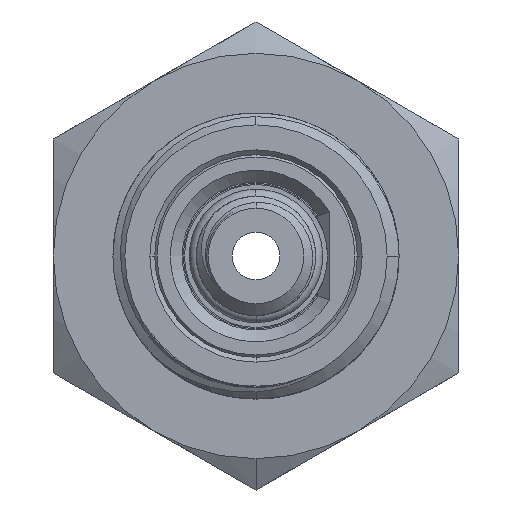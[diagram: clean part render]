
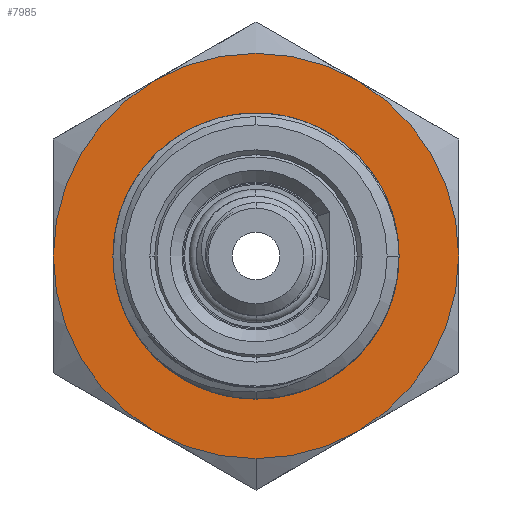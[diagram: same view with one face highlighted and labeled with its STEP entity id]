
A CAD part, front view. The second image highlights one B-rep face of the part: STEP entity #7985.
In plain terms, the highlighted planar face has unit normal (0, -1, 0).
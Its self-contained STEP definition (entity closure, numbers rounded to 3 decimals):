
#249 = AXIS2_PLACEMENT_3D ( 'NONE', #7183, #2002, #6165 ) ;
#459 = EDGE_CURVE ( 'NONE', #7045, #2466, #6243, .T. ) ;
#475 = CIRCLE ( 'NONE', #10247, 8.5 ) ;
#607 = VERTEX_POINT ( 'NONE', #5678 ) ;
#750 = CARTESIAN_POINT ( 'NONE',  ( -5.541, 10., -2.301 ) ) ;
#754 = ORIENTED_EDGE ( 'NONE', *, *, #12291, .F. ) ;
#930 = CARTESIAN_POINT ( 'NONE',  ( 0., 10., 0. ) ) ;
#1109 = ORIENTED_EDGE ( 'NONE', *, *, #2376, .T. ) ;
#1177 = ORIENTED_EDGE ( 'NONE', *, *, #5956, .T. ) ;
#1358 = AXIS2_PLACEMENT_3D ( 'NONE', #2819, #3719, #8782 ) ;
#1483 = CARTESIAN_POINT ( 'NONE',  ( 0., 10., -5.958 ) ) ;
#1499 = DIRECTION ( 'NONE',  ( 1., 0., 0. ) ) ;
#1562 = EDGE_LOOP ( 'NONE', ( #5737, #754, #12224, #9165, #12805, #7165, #1109 ) ) ;
#1620 = CARTESIAN_POINT ( 'NONE',  ( 0., 10., 0. ) ) ;
#1676 = DIRECTION ( 'NONE',  ( 0., 1., 0. ) ) ;
#1730 = FACE_BOUND ( 'NONE', #6843, .T. ) ;
#1734 = CARTESIAN_POINT ( 'NONE',  ( 0., 10., 0. ) ) ;
#1787 = CIRCLE ( 'NONE', #3534, 5.958 ) ;
#1860 = CARTESIAN_POINT ( 'NONE',  ( 0., 10., -8.5 ) ) ;
#1917 = ORIENTED_EDGE ( 'NONE', *, *, #11972, .T. ) ;
#2002 = DIRECTION ( 'NONE',  ( 0., 1., 0. ) ) ;
#2376 = EDGE_CURVE ( 'NONE', #7045, #3142, #475, .T. ) ;
#2466 = VERTEX_POINT ( 'NONE', #12027 ) ;
#2545 = ORIENTED_EDGE ( 'NONE', *, *, #7620, .T. ) ;
#2629 = AXIS2_PLACEMENT_3D ( 'NONE', #1620, #5777, #7966 ) ;
#2819 = CARTESIAN_POINT ( 'NONE',  ( 0., 10., 0. ) ) ;
#2849 = AXIS2_PLACEMENT_3D ( 'NONE', #12198, #2854, #7022 ) ;
#2854 = DIRECTION ( 'NONE',  ( 0., 1., 0. ) ) ;
#3006 = CARTESIAN_POINT ( 'NONE',  ( -5.783, 10., -1.434 ) ) ;
#3142 = VERTEX_POINT ( 'NONE', #5178 ) ;
#3298 = CIRCLE ( 'NONE', #6761, 8.5 ) ;
#3380 = DIRECTION ( 'NONE',  ( 0.5, 0., 0.866 ) ) ;
#3534 = AXIS2_PLACEMENT_3D ( 'NONE', #8760, #7922, #1499 ) ;
#3571 = EDGE_CURVE ( 'NONE', #2466, #8001, #9397, .T. ) ;
#3700 = EDGE_CURVE ( 'NONE', #9702, #11651, #3298, .T. ) ;
#3719 = DIRECTION ( 'NONE',  ( 0., -1., 0. ) ) ;
#3965 = CARTESIAN_POINT ( 'NONE',  ( -5.413, 10., -2.573 ) ) ;
#3977 = EDGE_CURVE ( 'NONE', #11651, #8001, #11773, .T. ) ;
#4193 = CARTESIAN_POINT ( 'NONE',  ( 0., 10., 0. ) ) ;
#4223 = DIRECTION ( 'NONE',  ( 0., -1., 0. ) ) ;
#4586 = ORIENTED_EDGE ( 'NONE', *, *, #6477, .T. ) ;
#4831 = AXIS2_PLACEMENT_3D ( 'NONE', #4193, #13370, #8210 ) ;
#5024 = B_SPLINE_CURVE_WITH_KNOTS ( 'NONE', 3,
 ( #7996, #12152, #11266, #3006 ),
 .UNSPECIFIED., .F., .F.,
 ( 4, 4 ),
 ( 0., 1. ),
 .UNSPECIFIED. ) ;
#5095 = CARTESIAN_POINT ( 'NONE',  ( -8.5, 10., 0. ) ) ;
#5140 = VERTEX_POINT ( 'NONE', #5095 ) ;
#5178 = CARTESIAN_POINT ( 'NONE',  ( -4.25, 10., 7.361 ) ) ;
#5225 = DIRECTION ( 'NONE',  ( 0.5, 0., 0.866 ) ) ;
#5424 = DIRECTION ( 'NONE',  ( 0., -1., 0. ) ) ;
#5470 = CIRCLE ( 'NONE', #2849, 5.958 ) ;
#5615 = EDGE_CURVE ( 'NONE', #10788, #9851, #5692, .T. ) ;
#5678 = CARTESIAN_POINT ( 'NONE',  ( -5.098, 10., -3.084 ) ) ;
#5692 = CIRCLE ( 'NONE', #4831, 5.959 ) ;
#5737 = ORIENTED_EDGE ( 'NONE', *, *, #11718, .F. ) ;
#5759 = DIRECTION ( 'NONE',  ( -0.5, 0., -0.866 ) ) ;
#5777 = DIRECTION ( 'NONE',  ( 0., 1., 0. ) ) ;
#5813 = ORIENTED_EDGE ( 'NONE', *, *, #5615, .T. ) ;
#5857 = B_SPLINE_CURVE_WITH_KNOTS ( 'NONE', 3,
 ( #12405, #11186, #3965, #750 ),
 .UNSPECIFIED., .F., .F.,
 ( 4, 4 ),
 ( 0., 1. ),
 .UNSPECIFIED. ) ;
#5888 = AXIS2_PLACEMENT_3D ( 'NONE', #1734, #6707, #5759 ) ;
#5891 = CARTESIAN_POINT ( 'NONE',  ( 4.25, 10., -7.361 ) ) ;
#5956 = EDGE_CURVE ( 'NONE', #9851, #13357, #1787, .T. ) ;
#6165 = DIRECTION ( 'NONE',  ( -1., 0., 0. ) ) ;
#6243 = CIRCLE ( 'NONE', #7761, 8.5 ) ;
#6437 = CARTESIAN_POINT ( 'NONE',  ( 0., 10., 0. ) ) ;
#6477 = EDGE_CURVE ( 'NONE', #607, #8264, #5857, .T. ) ;
#6707 = DIRECTION ( 'NONE',  ( 0., -1., 0. ) ) ;
#6717 = DIRECTION ( 'NONE',  ( -0.5, 0., -0.866 ) ) ;
#6761 = AXIS2_PLACEMENT_3D ( 'NONE', #12325, #4223, #12528 ) ;
#6843 = EDGE_LOOP ( 'NONE', ( #2545, #5813, #1177, #1917, #4586 ) ) ;
#7022 = DIRECTION ( 'NONE',  ( 1., 0., 0. ) ) ;
#7045 = VERTEX_POINT ( 'NONE', #8794 ) ;
#7165 = ORIENTED_EDGE ( 'NONE', *, *, #459, .F. ) ;
#7183 = CARTESIAN_POINT ( 'NONE',  ( 0., 10., 0. ) ) ;
#7620 = EDGE_CURVE ( 'NONE', #8264, #10788, #5024, .T. ) ;
#7761 = AXIS2_PLACEMENT_3D ( 'NONE', #930, #11499, #5225 ) ;
#7922 = DIRECTION ( 'NONE',  ( 0., 1., 0. ) ) ;
#7928 = CARTESIAN_POINT ( 'NONE',  ( -5.541, 10., -2.301 ) ) ;
#7966 = DIRECTION ( 'NONE',  ( 1., 0., 0. ) ) ;
#7985 = ADVANCED_FACE ( 'NONE', ( #1730, #9782 ), #8907, .T. ) ;
#7996 = CARTESIAN_POINT ( 'NONE',  ( -5.541, 10., -2.301 ) ) ;
#8001 = VERTEX_POINT ( 'NONE', #5891 ) ;
#8089 = CIRCLE ( 'NONE', #249, 8.5 ) ;
#8210 = DIRECTION ( 'NONE',  ( -0.971, 0., -0.241 ) ) ;
#8264 = VERTEX_POINT ( 'NONE', #7928 ) ;
#8760 = CARTESIAN_POINT ( 'NONE',  ( 0., 10., 0. ) ) ;
#8782 = DIRECTION ( 'NONE',  ( 1., 0., 0. ) ) ;
#8794 = CARTESIAN_POINT ( 'NONE',  ( 4.25, 10., 7.361 ) ) ;
#8907 = PLANE ( 'NONE',  #1358 ) ;
#9165 = ORIENTED_EDGE ( 'NONE', *, *, #3977, .T. ) ;
#9397 = CIRCLE ( 'NONE', #2629, 8.5 ) ;
#9702 = VERTEX_POINT ( 'NONE', #10348 ) ;
#9782 = FACE_OUTER_BOUND ( 'NONE', #1562, .T. ) ;
#9851 = VERTEX_POINT ( 'NONE', #10484 ) ;
#10247 = AXIS2_PLACEMENT_3D ( 'NONE', #6437, #5424, #3380 ) ;
#10348 = CARTESIAN_POINT ( 'NONE',  ( -4.25, 10., -7.361 ) ) ;
#10484 = CARTESIAN_POINT ( 'NONE',  ( 5.958, 10., 0. ) ) ;
#10788 = VERTEX_POINT ( 'NONE', #12602 ) ;
#10905 = AXIS2_PLACEMENT_3D ( 'NONE', #11029, #1676, #6717 ) ;
#11029 = CARTESIAN_POINT ( 'NONE',  ( 0., 10., 0. ) ) ;
#11186 = CARTESIAN_POINT ( 'NONE',  ( -5.265, 10., -2.835 ) ) ;
#11266 = CARTESIAN_POINT ( 'NONE',  ( -5.725, 10., -1.729 ) ) ;
#11499 = DIRECTION ( 'NONE',  ( 0., 1., 0. ) ) ;
#11651 = VERTEX_POINT ( 'NONE', #1860 ) ;
#11718 = EDGE_CURVE ( 'NONE', #5140, #3142, #8089, .T. ) ;
#11773 = CIRCLE ( 'NONE', #5888, 8.5 ) ;
#11972 = EDGE_CURVE ( 'NONE', #13357, #607, #5470, .T. ) ;
#12027 = CARTESIAN_POINT ( 'NONE',  ( 8.5, 10., 0. ) ) ;
#12152 = CARTESIAN_POINT ( 'NONE',  ( -5.644, 10., -2.018 ) ) ;
#12198 = CARTESIAN_POINT ( 'NONE',  ( 0., 10., 0. ) ) ;
#12224 = ORIENTED_EDGE ( 'NONE', *, *, #3700, .T. ) ;
#12291 = EDGE_CURVE ( 'NONE', #9702, #5140, #13283, .T. ) ;
#12325 = CARTESIAN_POINT ( 'NONE',  ( 0., 10., 0. ) ) ;
#12405 = CARTESIAN_POINT ( 'NONE',  ( -5.098, 10., -3.084 ) ) ;
#12528 = DIRECTION ( 'NONE',  ( -0.5, 0., -0.866 ) ) ;
#12602 = CARTESIAN_POINT ( 'NONE',  ( -5.783, 10., -1.434 ) ) ;
#12805 = ORIENTED_EDGE ( 'NONE', *, *, #3571, .F. ) ;
#13283 = CIRCLE ( 'NONE', #10905, 8.5 ) ;
#13357 = VERTEX_POINT ( 'NONE', #1483 ) ;
#13370 = DIRECTION ( 'NONE',  ( 0., 1., 0. ) ) ;
